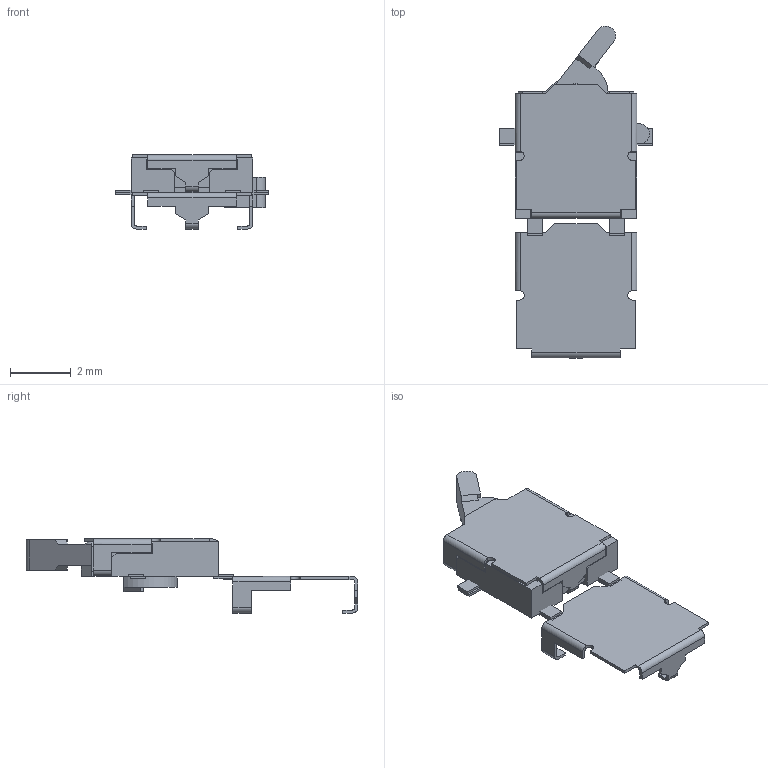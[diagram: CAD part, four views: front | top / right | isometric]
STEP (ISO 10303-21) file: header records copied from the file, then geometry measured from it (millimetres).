
FILE_DESCRIPTION( ( 'Unknown' ), '1' );
FILE_NAME( '//Ntcw022/Edgesv/fsw/ユーザ提出用データ/ﾃﾞｨﾃｸﾀｰｽｲｯﾁ/ESE18/ese18r11c-std-sk.stp', 'Unknown', ( 'Unknown' ), ( 'Unknown' ), 'PSStep 10.0', 'Unknown', ' ' );
FILE_SCHEMA( ( 'AUTOMOTIVE_DESIGN { 1 0 10303 214 1 1 1 1 }' ) );
Length unit declared in the file: millimetre
Products named in the file (8): Assem1; sw-131-e18cs-pc-1; sw-131-e18lv3-sk-1; sw-131-e18fm4-sk-1; sw-131-e18ts-f-sk-1
Bounding box: 5 x 10.88 x 2.43 mm (x, y, z)
Volume: 43.5 mm3; surface area: 237.2 mm2
Topology: 14 solids, 14 shells, 328 faces, 886 edges, 588 vertices
Faces by surface type: plane 288, cylinder 38, cone 2
Full cylindrical faces by diameter (mm): 0.6 x2, 0.64 x2
Entity records: 6513 total; most frequent: CARTESIAN_POINT 922, ORIENTED_EDGE 878, DIRECTION 818, EDGE_CURVE 439, LINE 396, VECTOR 396, VERTEX_POINT 293, AXIS2_PLACEMENT_3D 211
